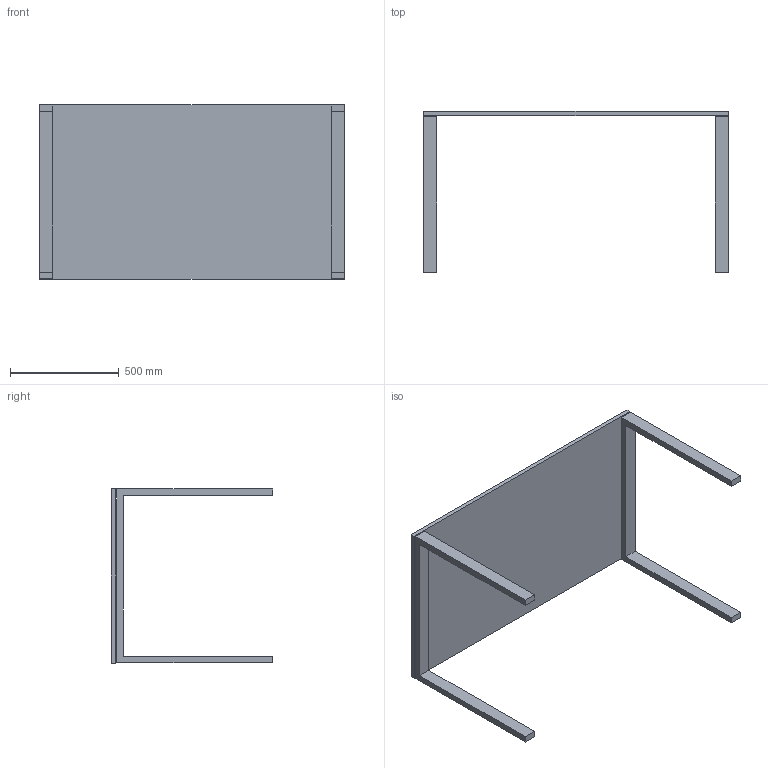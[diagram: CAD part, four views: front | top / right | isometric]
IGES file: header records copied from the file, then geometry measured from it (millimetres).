
Start section: SolidWorks IGES file using analytic representation for surfaces
Global section: file name: C:\Users\new\Downloads\SOLIDWORKS\mesa studio 1400x800.IGS; native system: SolidWorks 2014; preprocessor: SolidWorks 2014; author: new; date: 200110.131659; units: millimetre
Bounding box: 1400 x 740 x 800 mm (x, y, z)
Surface area: 3112213 mm2 (no closed solid volume)
Topology: 0 solids, 0 shells, 26 faces, 120 edges, 120 vertices
Faces by surface type: bspline 26
